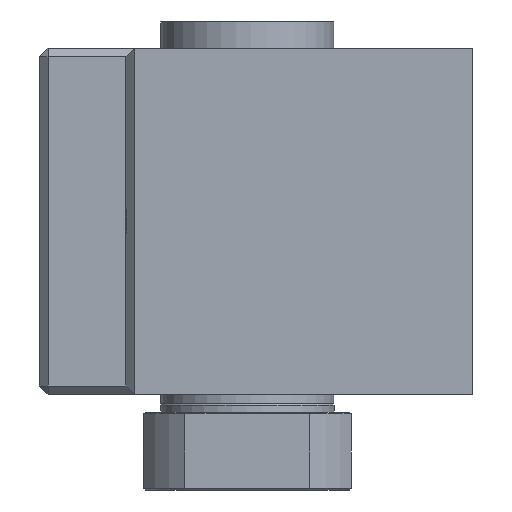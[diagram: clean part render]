
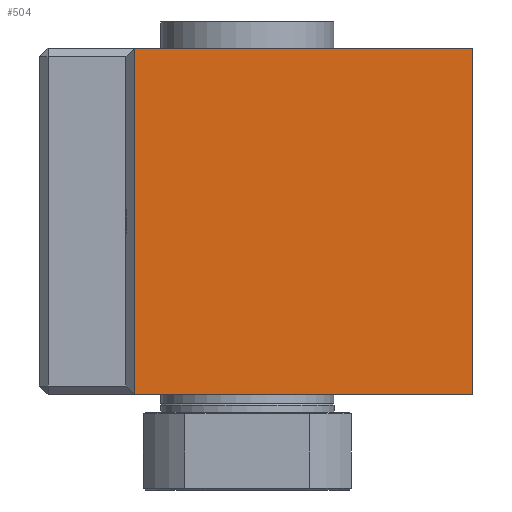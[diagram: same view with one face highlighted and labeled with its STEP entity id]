
A CAD part, left-side view. The second image highlights one B-rep face of the part: STEP entity #504.
In plain terms, the highlighted planar face has unit normal (-1, 0, 0).
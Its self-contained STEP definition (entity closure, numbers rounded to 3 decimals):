
#162=FACE_OUTER_BOUND('',#729,.T.);
#221=LINE('',#2223,#308);
#243=LINE('',#2274,#330);
#244=LINE('',#2276,#331);
#245=LINE('',#2278,#332);
#308=VECTOR('',#1788,1.);
#330=VECTOR('',#1826,1.);
#331=VECTOR('',#1827,1.);
#332=VECTOR('',#1828,1.);
#444=PLANE('',#1607);
#504=ADVANCED_FACE('',(#162),#444,.F.);
#729=EDGE_LOOP('',(#906,#907,#908,#909));
#906=ORIENTED_EDGE('',*,*,#1356,.F.);
#907=ORIENTED_EDGE('',*,*,#1380,.T.);
#908=ORIENTED_EDGE('',*,*,#1381,.T.);
#909=ORIENTED_EDGE('',*,*,#1382,.F.);
#1234=VERTEX_POINT('',#2222);
#1235=VERTEX_POINT('',#2224);
#1256=VERTEX_POINT('',#2275);
#1257=VERTEX_POINT('',#2277);
#1356=EDGE_CURVE('',#1234,#1235,#221,.T.);
#1380=EDGE_CURVE('',#1234,#1256,#243,.T.);
#1381=EDGE_CURVE('',#1256,#1257,#244,.T.);
#1382=EDGE_CURVE('',#1235,#1257,#245,.T.);
#1607=AXIS2_PLACEMENT_3D('',#2279,#1829,#1830);
#1788=DIRECTION('',(0.,-1.,0.));
#1826=DIRECTION('',(0.,0.,-1.));
#1827=DIRECTION('',(0.,-1.,0.));
#1828=DIRECTION('',(0.,0.,-1.));
#1829=DIRECTION('',(1.,0.,0.));
#1830=DIRECTION('',(0.,0.,-1.));
#2222=CARTESIAN_POINT('',(0.,19.5,20.));
#2223=CARTESIAN_POINT('',(0.,20.,20.));
#2224=CARTESIAN_POINT('',(0.,0.,20.));
#2274=CARTESIAN_POINT('',(0.,19.5,20.));
#2275=CARTESIAN_POINT('',(0.,19.5,0.));
#2276=CARTESIAN_POINT('',(0.,20.,0.));
#2277=CARTESIAN_POINT('',(0.,0.,0.));
#2278=CARTESIAN_POINT('',(0.,0.,20.));
#2279=CARTESIAN_POINT('',(0.,20.,20.));
